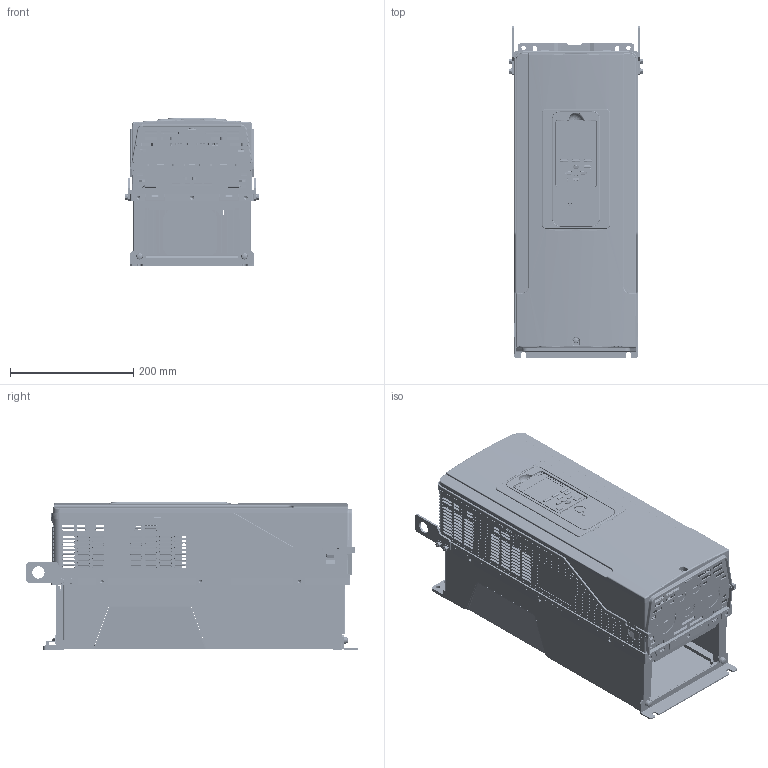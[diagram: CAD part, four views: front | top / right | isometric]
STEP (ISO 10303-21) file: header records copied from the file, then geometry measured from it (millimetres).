
FILE_DESCRIPTION((''),'2;1');
FILE_NAME('SM_HV60_FR3_T1','2019-10-17T',('jmattas'),(''),'PRO/ENGINEER BY PARAMETRIC TECHNOLOGY CORPORATION, 2015110','PRO/ENGINEER BY PARAMETRIC TECHNOLOGY CORPORATION, 2015110','');
FILE_SCHEMA(('CONFIG_CONTROL_DESIGN'));
Products named in the file (7): SM_HV60_FR3_T1_BASE; SM_HV60_FR3_T1_COVER1; SM_HV60_FR3_T1_KEYPAD; SM_HV60_FR3_T1_COVER2; SM_HV60_FR3_T1_COVER3; SM_HV60_FR3_T1_BRACKET1; SM_HV60_FR3_T1
Assembly tree (6 placements, depth 2):
  SM_HV60_FR3_T1
    SM_HV60_FR3_T1_BASE
    SM_HV60_FR3_T1_COVER1
    SM_HV60_FR3_T1_KEYPAD
    SM_HV60_FR3_T1_COVER2
    SM_HV60_FR3_T1_COVER3
    SM_HV60_FR3_T1_BRACKET1
Bounding box: 217.6 x 538 x 238.5 mm (x, y, z)
Volume: 4016035.8 mm3; surface area: 2057515.8 mm2
Topology: 6 solids, 15 shells, 7989 faces, 22330 edges, 14341 vertices
Faces by surface type: plane 5251, cylinder 1590, cone 750, torus 196, bspline 149, sphere 49, extrusion 4
Entity records: 282625 total; most frequent: CARTESIAN_POINT 77760, ORIENTED_EDGE 44516, DIRECTION 39915, EDGE_CURVE 22258, VECTOR 16033, LINE 16029, VERTEX_POINT 14340, AXIS2_PLACEMENT_3D 11941
